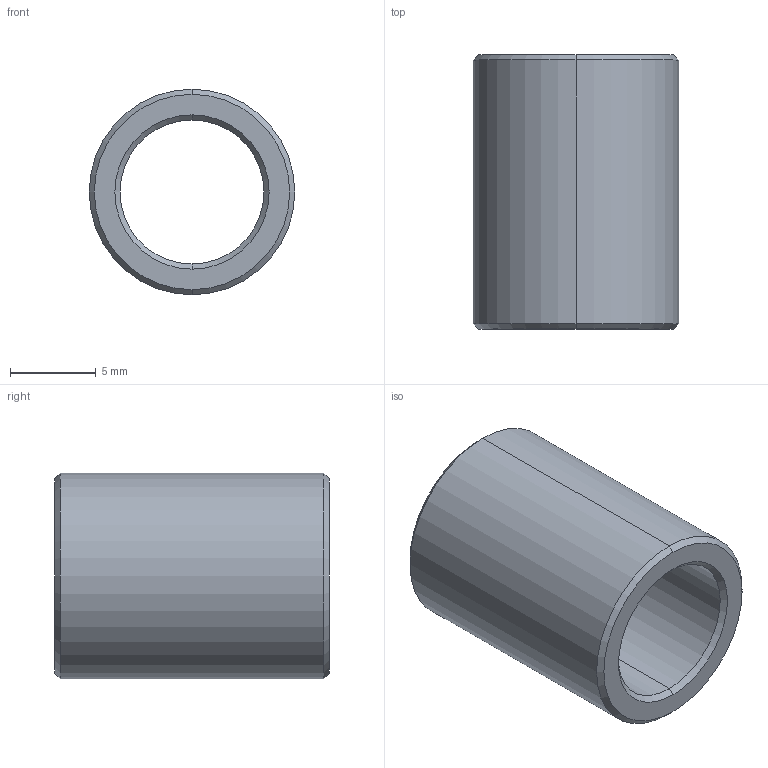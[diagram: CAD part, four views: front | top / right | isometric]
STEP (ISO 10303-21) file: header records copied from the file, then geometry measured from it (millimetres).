
FILE_DESCRIPTION (( 'STEP AP214' ), '1' );
FILE_NAME ('SBNB-12PT18.STEP', '2019-11-11T06:20:48', ( '微软用户' ), ( '微软中国' ), 'SwSTEP 2.0', 'SolidWorks 2016', '' );
FILE_SCHEMA (( 'AUTOMOTIVE_DESIGN' ));
Length unit declared in the file: millimetre
Products named in the file (1): SBNB-12PT18
Bounding box: 12 x 16 x 12 mm (x, y, z)
Volume: 917.1 mm3; surface area: 1118.2 mm2
Topology: 1 solids, 1 shells, 14 faces, 28 edges, 16 vertices
Faces by surface type: cone 8, cylinder 4, plane 2
Entity records: 402 total; most frequent: DIRECTION 74, CARTESIAN_POINT 59, ORIENTED_EDGE 56, AXIS2_PLACEMENT_3D 31, EDGE_CURVE 28, EDGE_LOOP 16, VERTEX_POINT 16, CIRCLE 16
